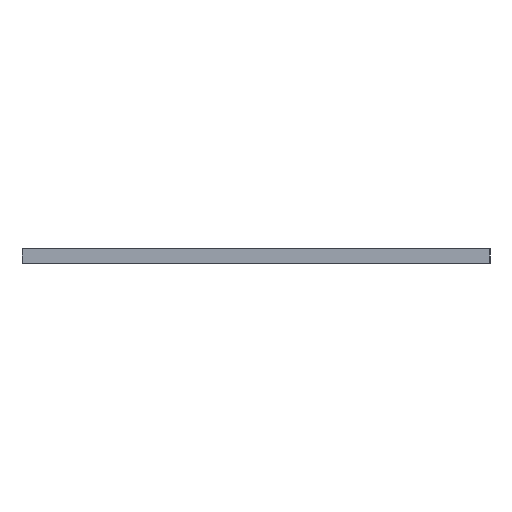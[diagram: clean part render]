
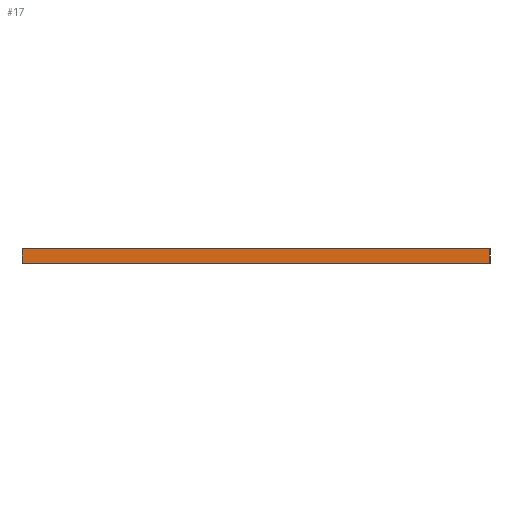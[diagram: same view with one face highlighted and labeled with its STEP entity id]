
A CAD part, left-side view. The second image highlights one B-rep face of the part: STEP entity #17.
In plain terms, the highlighted planar face has unit normal (-1, 0, 0).
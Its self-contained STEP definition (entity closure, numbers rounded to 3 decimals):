
#17 = ADVANCED_FACE('',(#18),#32,.F.);
#18 = FACE_BOUND('',#19,.F.);
#19 = EDGE_LOOP('',(#20,#55,#83,#111));
#20 = ORIENTED_EDGE('',*,*,#21,.F.);
#21 = EDGE_CURVE('',#22,#24,#26,.T.);
#22 = VERTEX_POINT('',#23);
#23 = CARTESIAN_POINT('',(0.,0.,50.));
#24 = VERTEX_POINT('',#25);
#25 = CARTESIAN_POINT('',(0.,0.,53.));
#26 = SURFACE_CURVE('',#27,(#31,#43),.PCURVE_S1.);
#27 = LINE('',#28,#29);
#28 = CARTESIAN_POINT('',(0.,0.,50.));
#29 = VECTOR('',#30,1.);
#30 = DIRECTION('',(0.,0.,1.));
#31 = PCURVE('',#32,#37);
#32 = PLANE('',#33);
#33 = AXIS2_PLACEMENT_3D('',#34,#35,#36);
#34 = CARTESIAN_POINT('',(0.,0.,50.));
#35 = DIRECTION('',(1.,0.,0.));
#36 = DIRECTION('',(0.,0.,1.));
#37 = DEFINITIONAL_REPRESENTATION('',(#38),#42);
#38 = LINE('',#39,#40);
#39 = CARTESIAN_POINT('',(0.,0.));
#40 = VECTOR('',#41,1.);
#41 = DIRECTION('',(1.,0.));
#42 = ( GEOMETRIC_REPRESENTATION_CONTEXT(2) 
PARAMETRIC_REPRESENTATION_CONTEXT() REPRESENTATION_CONTEXT('2D SPACE',''
  ) );
#43 = PCURVE('',#44,#49);
#44 = PLANE('',#45);
#45 = AXIS2_PLACEMENT_3D('',#46,#47,#48);
#46 = CARTESIAN_POINT('',(0.,0.,50.));
#47 = DIRECTION('',(0.,1.,0.));
#48 = DIRECTION('',(0.,0.,1.));
#49 = DEFINITIONAL_REPRESENTATION('',(#50),#54);
#50 = LINE('',#51,#52);
#51 = CARTESIAN_POINT('',(0.,0.));
#52 = VECTOR('',#53,1.);
#53 = DIRECTION('',(1.,0.));
#54 = ( GEOMETRIC_REPRESENTATION_CONTEXT(2) 
PARAMETRIC_REPRESENTATION_CONTEXT() REPRESENTATION_CONTEXT('2D SPACE',''
  ) );
#55 = ORIENTED_EDGE('',*,*,#56,.T.);
#56 = EDGE_CURVE('',#22,#57,#59,.T.);
#57 = VERTEX_POINT('',#58);
#58 = CARTESIAN_POINT('',(0.,100.,50.));
#59 = SURFACE_CURVE('',#60,(#64,#71),.PCURVE_S1.);
#60 = LINE('',#61,#62);
#61 = CARTESIAN_POINT('',(0.,0.,50.));
#62 = VECTOR('',#63,1.);
#63 = DIRECTION('',(0.,1.,0.));
#64 = PCURVE('',#32,#65);
#65 = DEFINITIONAL_REPRESENTATION('',(#66),#70);
#66 = LINE('',#67,#68);
#67 = CARTESIAN_POINT('',(0.,0.));
#68 = VECTOR('',#69,1.);
#69 = DIRECTION('',(0.,-1.));
#70 = ( GEOMETRIC_REPRESENTATION_CONTEXT(2) 
PARAMETRIC_REPRESENTATION_CONTEXT() REPRESENTATION_CONTEXT('2D SPACE',''
  ) );
#71 = PCURVE('',#72,#77);
#72 = PLANE('',#73);
#73 = AXIS2_PLACEMENT_3D('',#74,#75,#76);
#74 = CARTESIAN_POINT('',(0.,0.,50.));
#75 = DIRECTION('',(0.,0.,1.));
#76 = DIRECTION('',(1.,0.,0.));
#77 = DEFINITIONAL_REPRESENTATION('',(#78),#82);
#78 = LINE('',#79,#80);
#79 = CARTESIAN_POINT('',(0.,0.));
#80 = VECTOR('',#81,1.);
#81 = DIRECTION('',(0.,1.));
#82 = ( GEOMETRIC_REPRESENTATION_CONTEXT(2) 
PARAMETRIC_REPRESENTATION_CONTEXT() REPRESENTATION_CONTEXT('2D SPACE',''
  ) );
#83 = ORIENTED_EDGE('',*,*,#84,.T.);
#84 = EDGE_CURVE('',#57,#85,#87,.T.);
#85 = VERTEX_POINT('',#86);
#86 = CARTESIAN_POINT('',(0.,100.,53.));
#87 = SURFACE_CURVE('',#88,(#92,#99),.PCURVE_S1.);
#88 = LINE('',#89,#90);
#89 = CARTESIAN_POINT('',(0.,100.,50.));
#90 = VECTOR('',#91,1.);
#91 = DIRECTION('',(0.,0.,1.));
#92 = PCURVE('',#32,#93);
#93 = DEFINITIONAL_REPRESENTATION('',(#94),#98);
#94 = LINE('',#95,#96);
#95 = CARTESIAN_POINT('',(0.,-100.));
#96 = VECTOR('',#97,1.);
#97 = DIRECTION('',(1.,0.));
#98 = ( GEOMETRIC_REPRESENTATION_CONTEXT(2) 
PARAMETRIC_REPRESENTATION_CONTEXT() REPRESENTATION_CONTEXT('2D SPACE',''
  ) );
#99 = PCURVE('',#100,#105);
#100 = PLANE('',#101);
#101 = AXIS2_PLACEMENT_3D('',#102,#103,#104);
#102 = CARTESIAN_POINT('',(0.,100.,50.));
#103 = DIRECTION('',(0.,1.,0.));
#104 = DIRECTION('',(0.,0.,1.));
#105 = DEFINITIONAL_REPRESENTATION('',(#106),#110);
#106 = LINE('',#107,#108);
#107 = CARTESIAN_POINT('',(0.,0.));
#108 = VECTOR('',#109,1.);
#109 = DIRECTION('',(1.,0.));
#110 = ( GEOMETRIC_REPRESENTATION_CONTEXT(2) 
PARAMETRIC_REPRESENTATION_CONTEXT() REPRESENTATION_CONTEXT('2D SPACE',''
  ) );
#111 = ORIENTED_EDGE('',*,*,#112,.F.);
#112 = EDGE_CURVE('',#24,#85,#113,.T.);
#113 = SURFACE_CURVE('',#114,(#118,#125),.PCURVE_S1.);
#114 = LINE('',#115,#116);
#115 = CARTESIAN_POINT('',(0.,0.,53.));
#116 = VECTOR('',#117,1.);
#117 = DIRECTION('',(0.,1.,0.));
#118 = PCURVE('',#32,#119);
#119 = DEFINITIONAL_REPRESENTATION('',(#120),#124);
#120 = LINE('',#121,#122);
#121 = CARTESIAN_POINT('',(3.,0.));
#122 = VECTOR('',#123,1.);
#123 = DIRECTION('',(0.,-1.));
#124 = ( GEOMETRIC_REPRESENTATION_CONTEXT(2) 
PARAMETRIC_REPRESENTATION_CONTEXT() REPRESENTATION_CONTEXT('2D SPACE',''
  ) );
#125 = PCURVE('',#126,#131);
#126 = PLANE('',#127);
#127 = AXIS2_PLACEMENT_3D('',#128,#129,#130);
#128 = CARTESIAN_POINT('',(0.,0.,53.));
#129 = DIRECTION('',(0.,0.,1.));
#130 = DIRECTION('',(1.,0.,0.));
#131 = DEFINITIONAL_REPRESENTATION('',(#132),#136);
#132 = LINE('',#133,#134);
#133 = CARTESIAN_POINT('',(0.,0.));
#134 = VECTOR('',#135,1.);
#135 = DIRECTION('',(0.,1.));
#136 = ( GEOMETRIC_REPRESENTATION_CONTEXT(2) 
PARAMETRIC_REPRESENTATION_CONTEXT() REPRESENTATION_CONTEXT('2D SPACE',''
  ) );
